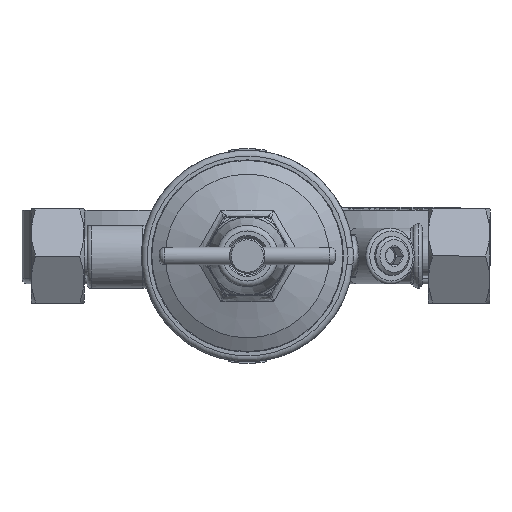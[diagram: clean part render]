
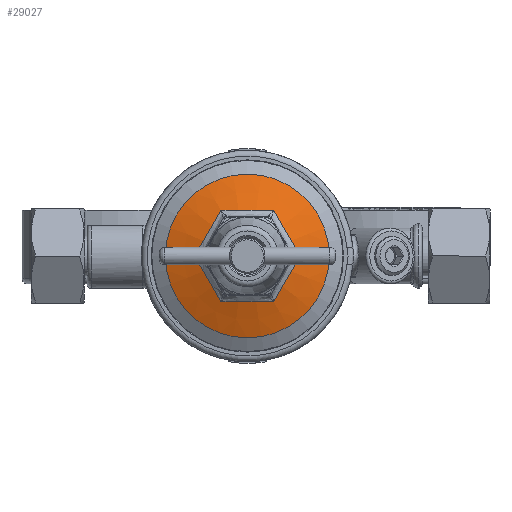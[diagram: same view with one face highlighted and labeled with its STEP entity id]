
A CAD part, front view. The second image highlights one B-rep face of the part: STEP entity #29027.
In plain terms, the highlighted conical face has half-angle 70 degrees and reference radius 21.92 mm.
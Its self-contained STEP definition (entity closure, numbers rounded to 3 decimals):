
#1744=CONICAL_SURFACE('',#30665,21.92,1.222);
#1810=LINE('',#37816,#4547);
#4547=VECTOR('',#32136,21.92);
#7290=CIRCLE('',#30666,27.839);
#9227=FACE_OUTER_BOUND('',#10844,.T.);
#10844=EDGE_LOOP('',(#20612,#20613,#20614,#20615,#20616,#20617,#20618,#20619,
#20620));
#12635=B_SPLINE_CURVE_WITH_KNOTS('',3,(#37818,#37819,#37820,#37821,#37822),
 .UNSPECIFIED.,.F.,.F.,(4,1,4),(3.331,4.152,5.248),
 .UNSPECIFIED.);
#12636=B_SPLINE_CURVE_WITH_KNOTS('',3,(#37824,#37825,#37826,#37827,#37828),
 .UNSPECIFIED.,.F.,.F.,(4,1,4),(2.21,3.032,4.127),
 .UNSPECIFIED.);
#12637=B_SPLINE_CURVE_WITH_KNOTS('',3,(#37830,#37831,#37832,#37833,#37834),
 .UNSPECIFIED.,.F.,.F.,(4,1,4),(3.331,4.152,5.248),
 .UNSPECIFIED.);
#12638=B_SPLINE_CURVE_WITH_KNOTS('',3,(#37836,#37837,#37838,#37839,#37840),
 .UNSPECIFIED.,.F.,.F.,(4,1,4),(3.331,4.152,5.248),
 .UNSPECIFIED.);
#12639=B_SPLINE_CURVE_WITH_KNOTS('',3,(#37842,#37843,#37844,#37845,#37846),
 .UNSPECIFIED.,.F.,.F.,(4,1,4),(2.21,3.032,4.127),
 .UNSPECIFIED.);
#12640=B_SPLINE_CURVE_WITH_KNOTS('',3,(#37847,#37848,#37849,#37850,#37851),
 .UNSPECIFIED.,.F.,.F.,(4,1,4),(3.331,4.152,5.248),
 .UNSPECIFIED.);
#13688=VERTEX_POINT('',#37813);
#13689=VERTEX_POINT('',#37815);
#13690=VERTEX_POINT('',#37817);
#13691=VERTEX_POINT('',#37823);
#13692=VERTEX_POINT('',#37829);
#13693=VERTEX_POINT('',#37835);
#13694=VERTEX_POINT('',#37841);
#16429=EDGE_CURVE('',#13688,#13688,#7290,.T.);
#16430=EDGE_CURVE('',#13688,#13689,#1810,.T.);
#16431=EDGE_CURVE('',#13690,#13689,#12635,.T.);
#16432=EDGE_CURVE('',#13691,#13690,#12636,.T.);
#16433=EDGE_CURVE('',#13692,#13691,#12637,.T.);
#16434=EDGE_CURVE('',#13693,#13692,#12638,.T.);
#16435=EDGE_CURVE('',#13694,#13693,#12639,.T.);
#16436=EDGE_CURVE('',#13689,#13694,#12640,.T.);
#20612=ORIENTED_EDGE('',*,*,#16429,.T.);
#20613=ORIENTED_EDGE('',*,*,#16430,.T.);
#20614=ORIENTED_EDGE('',*,*,#16431,.F.);
#20615=ORIENTED_EDGE('',*,*,#16432,.F.);
#20616=ORIENTED_EDGE('',*,*,#16433,.F.);
#20617=ORIENTED_EDGE('',*,*,#16434,.F.);
#20618=ORIENTED_EDGE('',*,*,#16435,.F.);
#20619=ORIENTED_EDGE('',*,*,#16436,.F.);
#20620=ORIENTED_EDGE('',*,*,#16430,.F.);
#29027=ADVANCED_FACE('',(#9227),#1744,.T.);
#30665=AXIS2_PLACEMENT_3D('',#37812,#32132,#32133);
#30666=AXIS2_PLACEMENT_3D('',#37814,#32134,#32135);
#32132=DIRECTION('center_axis',(0.,1.,0.));
#32133=DIRECTION('ref_axis',(-1.,0.,0.));
#32134=DIRECTION('center_axis',(0.,-1.,0.));
#32135=DIRECTION('ref_axis',(-1.,0.,0.));
#32136=DIRECTION('',(-0.94,-0.342,0.));
#37812=CARTESIAN_POINT('Origin',(0.,-5.345,
0.));
#37813=CARTESIAN_POINT('',(27.839,-3.191,0.));
#37814=CARTESIAN_POINT('Origin',(0.,-3.191,
0.));
#37815=CARTESIAN_POINT('',(18.026,-6.762,0.));
#37816=CARTESIAN_POINT('',(21.92,-5.345,0.));
#37817=CARTESIAN_POINT('',(9.013,-6.762,-15.611));
#37818=CARTESIAN_POINT('Ctrl Pts',(9.013,-6.762,-15.611));
#37819=CARTESIAN_POINT('Ctrl Pts',(10.252,-7.253,-13.341));
#37820=CARTESIAN_POINT('Ctrl Pts',(13.133,-8.049,-8.073));
#37821=CARTESIAN_POINT('Ctrl Pts',(16.23,-7.416,-2.943));
#37822=CARTESIAN_POINT('Ctrl Pts',(18.026,-6.762,0.));
#37823=CARTESIAN_POINT('',(-9.013,-6.762,-15.611));
#37824=CARTESIAN_POINT('Ctrl Pts',(-9.013,-6.762,
-15.611));
#37825=CARTESIAN_POINT('Ctrl Pts',(-6.428,-7.253,
-15.549));
#37826=CARTESIAN_POINT('Ctrl Pts',(-0.425,-8.049,
-15.41));
#37827=CARTESIAN_POINT('Ctrl Pts',(5.566,-7.416,-15.528));
#37828=CARTESIAN_POINT('Ctrl Pts',(9.013,-6.762,-15.611));
#37829=CARTESIAN_POINT('',(-18.026,-6.762,0.));
#37830=CARTESIAN_POINT('Ctrl Pts',(-18.026,-6.762,
0.));
#37831=CARTESIAN_POINT('Ctrl Pts',(-16.679,-7.253,
-2.208));
#37832=CARTESIAN_POINT('Ctrl Pts',(-13.558,-8.049,
-7.337));
#37833=CARTESIAN_POINT('Ctrl Pts',(-10.664,-7.416,-12.584));
#37834=CARTESIAN_POINT('Ctrl Pts',(-9.013,-6.762,
-15.611));
#37835=CARTESIAN_POINT('',(-9.013,-6.762,15.611));
#37836=CARTESIAN_POINT('Ctrl Pts',(-9.013,-6.762,15.611));
#37837=CARTESIAN_POINT('Ctrl Pts',(-10.252,-7.253,
13.341));
#37838=CARTESIAN_POINT('Ctrl Pts',(-13.133,-8.049,
8.073));
#37839=CARTESIAN_POINT('Ctrl Pts',(-16.23,-7.416,
2.943));
#37840=CARTESIAN_POINT('Ctrl Pts',(-18.026,-6.762,
0.));
#37841=CARTESIAN_POINT('',(9.013,-6.762,15.611));
#37842=CARTESIAN_POINT('Ctrl Pts',(9.013,-6.762,15.611));
#37843=CARTESIAN_POINT('Ctrl Pts',(6.428,-7.253,15.549));
#37844=CARTESIAN_POINT('Ctrl Pts',(0.425,-8.049,
15.41));
#37845=CARTESIAN_POINT('Ctrl Pts',(-5.566,-7.416,15.528));
#37846=CARTESIAN_POINT('Ctrl Pts',(-9.013,-6.762,
15.611));
#37847=CARTESIAN_POINT('Ctrl Pts',(18.026,-6.762,0.));
#37848=CARTESIAN_POINT('Ctrl Pts',(16.679,-7.253,2.208));
#37849=CARTESIAN_POINT('Ctrl Pts',(13.558,-8.049,7.337));
#37850=CARTESIAN_POINT('Ctrl Pts',(10.664,-7.416,12.584));
#37851=CARTESIAN_POINT('Ctrl Pts',(9.013,-6.762,15.611));
